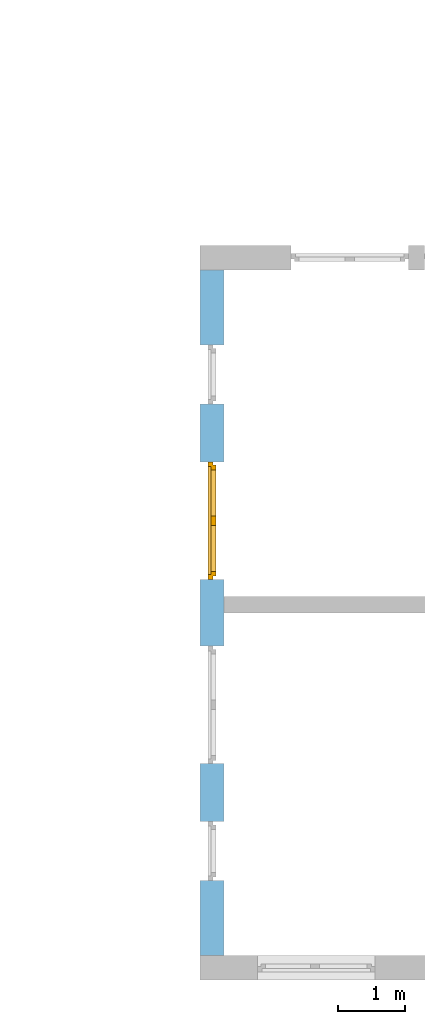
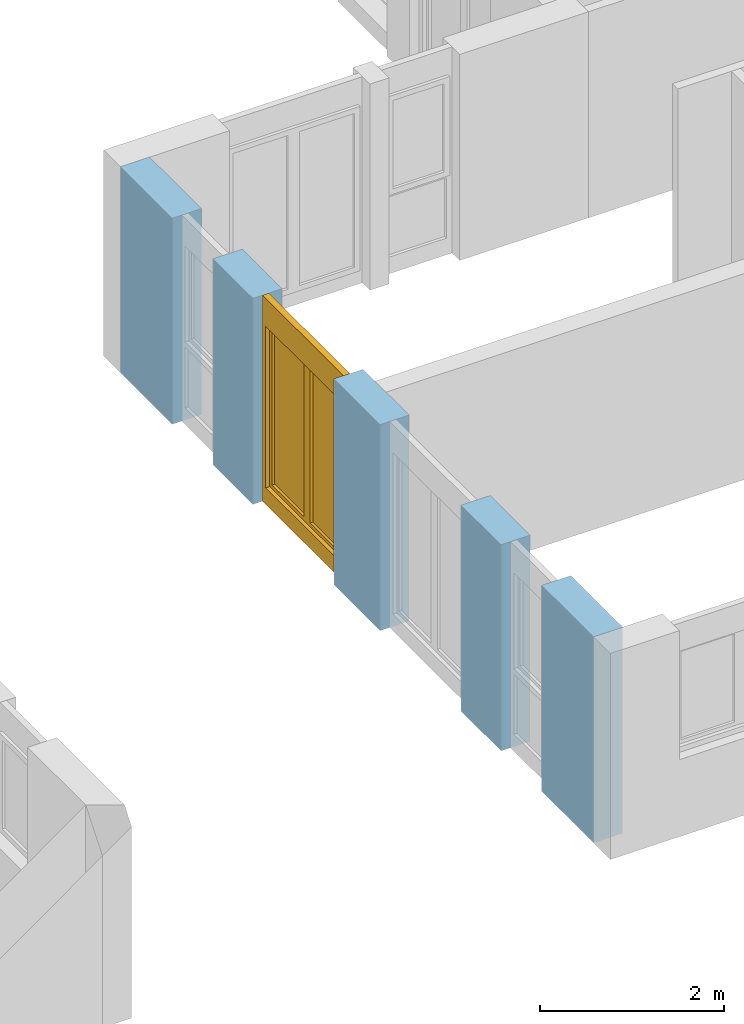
# One storey, part 15 of 41: 1 window, 4 openings, plus 1 element that does not belong to this part.
"""IFC2X3 building model written with IfcOpenShell, lengths in millimetres."""

import ifcopenshell
import ifcopenshell.guid

model = None  # the IFC model being written
_history = None  # IfcOwnerHistory: only IFC2X3 demands one
_inside = {}  # id of a spatial element -> (the spatial element, [elements in it])
_under = {}  # id of a project, library or spatial element -> (it, [spatial elements below it])
_declared = {}  # id of a project -> (the project, [libraries it declares])
_typed = {}  # id of a type object -> (the type object, [elements of that type])
_made_of = {}  # id of a material, layer set ... -> (it, [elements and type objects made of it])


def new_model(schema):
    """Start an empty IFC model of exactly this schema.

    Asked for "IFC4X3", IfcOpenShell would pick the latest addendum, in which some entities
    have other attributes; the version numbers below select the first issue.
    IFC2X3 requires an IfcOwnerHistory on every rooted entity: one is made here for all.
    """
    global model, _history
    if schema == "IFC4X3":
        model = ifcopenshell.file(schema_version=(4, 3, 0, 0))
    else:
        model = ifcopenshell.file(schema=schema)
    _inside.clear()
    _under.clear()
    _declared.clear()
    _typed.clear()
    _made_of.clear()
    _history = None
    if model.schema == "IFC2X3":
        org = make("IfcOrganization", Name="unknown")
        user = make(
            "IfcPersonAndOrganization",
            ThePerson=make("IfcPerson", FamilyName="unknown"),
            TheOrganization=org,
        )
        app = make(
            "IfcApplication",
            ApplicationDeveloper=org,
            Version="unknown",
            ApplicationFullName="unknown",
            ApplicationIdentifier="unknown",
        )
        _history = make(
            "IfcOwnerHistory",
            OwningUser=user,
            OwningApplication=app,
            ChangeAction="ADDED",
            CreationDate=0,
        )
    return model


def make(cls, **values):
    """One entity of the class cls with the attributes given. An attribute that is None is left unset."""
    return model.create_entity(
        cls, **{name: value for name, value in values.items() if value is not None}
    )


def entity(cls, *values):
    """Any entity or typed value of the class cls, its attributes in the order of the schema. None: left unset."""
    e = model.create_entity(cls)
    for i, value in enumerate(values):
        if value is not None:
            e[i] = value
    return e


def rooted(cls, **values):
    """An entity with a GlobalId (a new one), such as an element, a storey or a relation."""
    return make(cls, GlobalId=ifcopenshell.guid.new(), OwnerHistory=_history, **values)


def si_unit(unit_type, name, prefix=None):
    """IfcSIUnit, for example si_unit("LENGTHUNIT", "METRE", prefix="MILLI")."""
    return make("IfcSIUnit", UnitType=unit_type, Prefix=prefix, Name=name)


def converted_unit(unit_type, name, factor, base, dimensions=None, offset=None):
    """IfcConversionBasedUnit, such as the inch: factor (a typed value) times the base unit."""
    return make(
        "IfcConversionBasedUnit"
        if offset is None
        else "IfcConversionBasedUnitWithOffset",
        ConversionOffset=offset,
        Dimensions=None
        if dimensions is None
        else entity("IfcDimensionalExponents", *dimensions),
        UnitType=unit_type,
        Name=name,
        ConversionFactor=make(
            "IfcMeasureWithUnit", ValueComponent=factor, UnitComponent=base
        ),
    )


def assignment(units):
    """IfcUnitAssignment: the units of a project."""
    return None if units is None else make("IfcUnitAssignment", Units=units)


def point(xyz):
    """IfcCartesianPoint."""
    return None if xyz is None else make("IfcCartesianPoint", Coordinates=xyz)


def direction(xyz):
    """IfcDirection."""
    return None if xyz is None else make("IfcDirection", DirectionRatios=xyz)


def frame(location, z_axis=None, x_axis=None):
    """IfcAxis2Placement3D, a coordinate frame: its origin and axes. An axis left out is left unset."""
    return make(
        "IfcAxis2Placement3D",
        Location=point(location),
        Axis=direction(z_axis),
        RefDirection=direction(x_axis),
    )


def frame_2d(location, x_axis=None):
    """IfcAxis2Placement2D, a coordinate frame in the plane: its origin and x axis."""
    return make(
        "IfcAxis2Placement2D", Location=point(location), RefDirection=direction(x_axis)
    )


def origin():
    """The frame at (0, 0, 0) with its axes left unset."""
    return frame((0.0, 0.0, 0.0))


def origin_with_axes():
    """The frame at (0, 0, 0) with the z axis (0, 0, 1) and the x axis (1, 0, 0) written out."""
    return frame((0.0, 0.0, 0.0), z_axis=(0.0, 0.0, 1.0), x_axis=(1.0, 0.0, 0.0))


def place(relative_to, where):
    """IfcLocalPlacement: puts the frame where relative to a parent placement (None: the world)."""
    return make(
        "IfcLocalPlacement", PlacementRelTo=relative_to, RelativePlacement=where
    )


def context(
    kind, dimensions, precision=None, world=None, true_north=None, identifier=None
):
    """IfcGeometricRepresentationContext, for example the 3D "Model" context."""
    return make(
        "IfcGeometricRepresentationContext",
        ContextIdentifier=identifier,
        ContextType=kind,
        CoordinateSpaceDimension=dimensions,
        Precision=precision,
        WorldCoordinateSystem=world,
        TrueNorth=true_north,
    )


def subcontext(parent, identifier, kind, view, scale=None):
    """IfcGeometricRepresentationSubContext, for example "Body" below "Model"."""
    return make(
        "IfcGeometricRepresentationSubContext",
        ContextIdentifier=identifier,
        ContextType=kind,
        ParentContext=parent,
        TargetScale=scale,
        TargetView=view,
    )


def project(units=None, contexts=None):
    """IfcProject with its units and contexts."""
    return rooted(
        "IfcProject",
        Name="project",
        RepresentationContexts=contexts,
        UnitsInContext=assignment(units),
    )


def spatial(cls, under=None, at=None, **own):
    """A site, building, storey or space (cls), placed at a placement, below another one or the project."""
    s = rooted(cls, ObjectPlacement=at, **own)
    if under is not None:
        _under.setdefault(under.id(), (under, []))[1].append(s)
    return s


def profile(cls, at=None, kind="AREA", **sizes):
    """A parametric profile (cls). Its sizes go by their IFC names, for example OverallWidth=200.0."""
    return make(cls, ProfileType=kind, Position=at, **sizes)


def rectangle(**sizes):
    """IfcRectangleProfileDef."""
    return profile("IfcRectangleProfileDef", **sizes)


def extrude(swept, where, along, depth):
    """IfcExtrudedAreaSolid: the profile swept, set in the frame where, extruded along a direction by depth."""
    return make(
        "IfcExtrudedAreaSolid",
        SweptArea=swept,
        Position=where,
        ExtrudedDirection=direction(along),
        Depth=depth,
    )


def faces_of(points, faces, orient=None, outer=None):
    """IfcFace entities. A face is a list of loops; a loop is a list of indices into points, from 0.

    orient and outer hold one flag for each loop. By default every Orientation is true, the
    first loop of a face is its IfcFaceOuterBound and the others are IfcFaceBound.
    """
    made = []
    for i, loops in enumerate(faces):
        bounds = []
        for j, loop in enumerate(loops):
            is_outer = j == 0 if outer is None else outer[i][j]
            bounds.append(
                make(
                    "IfcFaceOuterBound" if is_outer else "IfcFaceBound",
                    Bound=make("IfcPolyLoop", Polygon=[points[k] for k in loop]),
                    Orientation=True if orient is None else orient[i][j],
                )
            )
        made.append(make("IfcFace", Bounds=bounds))
    return made


def faceted_brep(points, faces, orient=None, outer=None, voids=None):
    """IfcFacetedBrep: a solid bounded by flat faces; with voids (closed shells), ...WithVoids."""
    shared = [point(p) for p in points]
    hull = make("IfcClosedShell", CfsFaces=faces_of(shared, faces, orient, outer))
    if voids is None:
        return make("IfcFacetedBrep", Outer=hull)
    return make(
        "IfcFacetedBrepWithVoids",
        Outer=hull,
        Voids=[
            make(cls, CfsFaces=faces_of(shared, fs, o, b)) for cls, fs, o, b in voids
        ],
    )


def shape(context_of_items, identifier, shape_type, items):
    """IfcShapeRepresentation: the items that make up one representation, for example the "Body"."""
    return make(
        "IfcShapeRepresentation",
        ContextOfItems=context_of_items,
        RepresentationIdentifier=identifier,
        RepresentationType=shape_type,
        Items=items,
    )


def material(Name=None, Category=None):
    """IfcMaterial."""
    return make("IfcMaterial", Name=Name, Category=Category)


def layer(
    of_material, thickness, ventilated=None, Name=None, Category=None, Priority=None
):
    """IfcMaterialLayer: one layer of a wall or slab, of a material (None: an air gap)."""
    return make(
        "IfcMaterialLayer",
        Material=of_material,
        LayerThickness=thickness,
        IsVentilated=ventilated,
        Name=Name,
        Category=Category,
        Priority=Priority,
    )


def layer_set(layers, Name=None):
    """IfcMaterialLayerSet."""
    return make("IfcMaterialLayerSet", MaterialLayers=layers, LayerSetName=Name)


def layer_usage(for_layer_set, set_direction, sense, offset, extent=None):
    """IfcMaterialLayerSetUsage: how a layer set lies in its element."""
    return make(
        "IfcMaterialLayerSetUsage",
        ForLayerSet=for_layer_set,
        LayerSetDirection=set_direction,
        DirectionSense=sense,
        OffsetFromReferenceLine=offset,
        ReferenceExtent=extent,
    )


def made_of(thing, what):
    """Note that an element or type object is made of a material, layer set ...; save() writes the relation."""
    if what is not None:
        _made_of.setdefault(what.id(), (what, []))[1].append(thing)
    return thing


def type_object(cls, material=None, **own):
    """A type object (cls), such as IfcWallType, which elements share."""
    return made_of(rooted(cls, **own), material)


def element(
    cls,
    number,
    at=None,
    inside=None,
    cuts=None,
    type_object=None,
    material=None,
    context=None,
    identifier="Body",
    shape_type=None,
    held_by="IfcProductDefinitionShape",
    body=None,
    shapes=None,
    **own,
):
    """One element of the class cls, such as IfcWall. Its Tag is "e" and its number.

    at: its placement. inside: the storey or other place that contains it. cuts: it is an
    opening in that element (IfcRelVoidsElement). A single representation is given by context,
    identifier, shape_type and body (its items); several are given by shapes. held_by: the class
    of the entity that holds the representations. save() writes the other relations.
    """
    e = rooted(cls, Tag="e%d" % number, ObjectPlacement=at, **own)
    if body is not None:
        shapes = [shape(context, identifier, shape_type, body)]
    if shapes is not None:
        e.Representation = make(held_by, Representations=shapes)
    if inside is not None:
        _inside.setdefault(inside.id(), (inside, []))[1].append(e)
    if cuts is not None:
        rooted(
            "IfcRelVoidsElement", RelatingBuildingElement=cuts, RelatedOpeningElement=e
        )
    if type_object is not None:
        _typed.setdefault(type_object.id(), (type_object, []))[1].append(e)
    return made_of(e, material)


def fill(opening, filler):
    """IfcRelFillsElement: the door or window that sits in an opening."""
    return rooted(
        "IfcRelFillsElement",
        RelatingOpeningElement=opening,
        RelatedBuildingElement=filler,
    )


def aggregate(whole, parts):
    """IfcRelAggregates: a whole, such as a stair, and the parts it consists of."""
    return rooted("IfcRelAggregates", RelatingObject=whole, RelatedObjects=parts)


def save(model, path):
    """Write the relations noted so far, then the file.

    IfcRelAggregates (storeys below a building ...), IfcRelContainedInSpatialStructure (elements
    in a storey), IfcRelDefinesByType, IfcRelAssociatesMaterial and IfcRelDeclares: one each for
    every whole, place, type object, material and project.
    """
    for whole, parts in _under.values():
        aggregate(whole, parts)
    for where, things in _inside.values():
        rooted(
            "IfcRelContainedInSpatialStructure",
            RelatedElements=things,
            RelatingStructure=where,
        )
    for kind, things in _typed.values():
        rooted("IfcRelDefinesByType", RelatedObjects=things, RelatingType=kind)
    for what, things in _made_of.values():
        rooted("IfcRelAssociatesMaterial", RelatedObjects=things, RelatingMaterial=what)
    for by, libraries in _declared.values():
        rooted("IfcRelDeclares", RelatingContext=by, RelatedDefinitions=libraries)
    model.write(path)


model = new_model("IFC2X3")

# Units and contexts
model_context = context("Model", 3, precision=1e-05, world=origin())
body_context = subcontext(model_context, "Body", "Model", "MODEL_VIEW")
ifc_project = project(units=[si_unit("LENGTHUNIT", "METRE", prefix="MILLI"), converted_unit("PLANEANGLEUNIT", "DEGREE", entity("IfcPlaneAngleMeasure", 0.0174532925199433), si_unit("PLANEANGLEUNIT", "RADIAN"), dimensions=[0, 0, 0, 0, 0, 0, 0]), si_unit("AREAUNIT", "SQUARE_METRE"), si_unit("VOLUMEUNIT", "CUBIC_METRE")], contexts=[model_context])

# Building, storey
building_placement = place(None, origin())
building = spatial("IfcBuilding", under=ifc_project, at=building_placement, Name="Gebäude", CompositionType="ELEMENT")
storey_placement = place(building_placement, frame((0.0, 0.0, -200.0), z_axis=(0.0, 0.0, 1.0), x_axis=(1.0, 0.0, 0.0)))
storey = spatial("IfcBuildingStorey", under=building, at=storey_placement, Name="EG.- Grundriss", CompositionType="ELEMENT", Elevation=-200.0)

# Wall, openings, window
ifc_material_1 = material(Name="Poroton")
ifc_layer = layer(ifc_material_1, 365.0)
ifc_layer_set = layer_set([ifc_layer])
ifc_layer_usage = layer_usage(ifc_layer_set, "AXIS2", "POSITIVE", 0.0)
wall_placement = place(storey_placement, frame((148357.7928067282, 135909.8877324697, 0.0), z_axis=(0.0, 0.0, 1.0), x_axis=(1.70032115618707e-14, -1.0, 0.0)))
wall = element("IfcWallStandardCase", 1, at=wall_placement, inside=storey, material=ifc_layer_usage, Name="<Unnamed Element>", context=body_context, shape_type="SweptSolid", body=[
    extrude(rectangle(XDim=10269.99999999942, YDim=365.0, at=frame_2d((5134.999999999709, 182.5), x_axis=(1.0, 0.0))), origin_with_axes(), (0.0, 0.0, 1.0), 2730.0),
])
opening_1_placement = place(wall_placement, frame((8259.999999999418, -9.487848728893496e-11, 0.0), z_axis=(0.0, 1.0, 0.0), x_axis=(0.0, 0.0, 1.0)))
element("IfcOpeningElement", 2, at=opening_1_placement, cuts=wall, Name="Fensteröffnung", ObjectType="Opening", context=body_context, shape_type="SweptSolid", body=[
    extrude(rectangle(XDim=2730.0, YDim=885.0, at=frame_2d((1365.0, 442.5), x_axis=(1.0, 0.0))), origin_with_axes(), (0.0, 0.0, 1.0), 365.0),
])
opening_2_placement = place(wall_placement, frame((5634.999999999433, -7.668859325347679e-11, 0.0), z_axis=(0.0, 1.0, 0.0), x_axis=(0.0, 0.0, 1.0)))
element("IfcOpeningElement", 3, at=opening_2_placement, cuts=wall, Name="Fensteröffnung", ObjectType="Opening", context=body_context, shape_type="SweptSolid", body=[
    extrude(rectangle(XDim=2730.0, YDim=1760.0, at=frame_2d((1365.0, 880.0), x_axis=(1.0, 0.0))), origin_with_axes(), (0.0, 0.0, 1.0), 365.0),
])
opening_3_placement = place(wall_placement, frame((2874.999999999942, -2.54658516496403e-11, 0.0), z_axis=(0.0, 1.0, 0.0), x_axis=(0.0, 0.0, 1.0)))
opening_3 = element("IfcOpeningElement", 4, at=opening_3_placement, cuts=wall, Name="Fensteröffnung", ObjectType="Opening", context=body_context, shape_type="SweptSolid", body=[
    extrude(rectangle(XDim=2730.0, YDim=1760.0, at=frame_2d((1365.0, 880.0), x_axis=(1.0, 0.0))), origin_with_axes(), (0.0, 0.0, 1.0), 365.0),
])
opening_4_placement = place(wall_placement, frame((1124.999999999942, -3.63797880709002e-12, 0.0), z_axis=(0.0, 1.0, 0.0), x_axis=(0.0, 0.0, 1.0)))
element("IfcOpeningElement", 5, at=opening_4_placement, cuts=wall, Name="Fensteröffnung", ObjectType="Opening", context=body_context, shape_type="SweptSolid", body=[
    extrude(rectangle(XDim=2730.0, YDim=885.0, at=frame_2d((1365.0, 442.5), x_axis=(1.0, 0.0))), origin_with_axes(), (0.0, 0.0, 1.0), 365.0),
])
ifc_material_2 = material()
window_style = type_object("IfcWindowStyle", Name="Fenster", ConstructionType="NOTDEFINED", OperationType="USERDEFINED", ParameterTakesPrecedence=False, Sizeable=False)
window_placement = place(opening_3_placement, frame((0.0, 0.0, 0.0), z_axis=(1.0, 0.0, 0.0), x_axis=(0.0, 1.0, 0.0)))
window = element("IfcWindow", 6, at=window_placement, inside=storey, type_object=window_style, material=ifc_material_2, Name="Fenster", OverallHeight=2730.0, OverallWidth=1760.0, context=body_context, shape_type="Brep", body=[
    faceted_brep([(1.355358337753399e-12, 200.0000000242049, 2730.0), (1.355358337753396e-12, 200.0000000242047, -2.449293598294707e-15), (69.99999999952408, 200.0000000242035, -2.449293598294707e-15), (69.99999999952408, 200.0000000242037, 2730.0), (0.0, 120.0000000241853, 2.449293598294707e-15), (2.88912006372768e-27, 120.0000000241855, 2730.0), (69.99999999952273, 120.0000000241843, 2730.0), (69.99999999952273, 120.0000000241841, 2.449293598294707e-15), (1.355358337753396e-12, 200.0000000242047, -2.449293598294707e-15), (1.355358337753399e-12, 200.0000000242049, 2730.0), (2.88912006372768e-27, 120.0000000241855, 2730.0), (0.0, 120.0000000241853, 2.449293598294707e-15), (69.99999999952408, 200.0000000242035, -2.449293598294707e-15), (1.355358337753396e-12, 200.0000000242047, -2.449293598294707e-15), (0.0, 120.0000000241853, 2.449293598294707e-15), (69.99999999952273, 120.0000000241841, 2.449293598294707e-15), (69.99999999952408, 200.0000000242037, 2730.0), (69.99999999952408, 200.0000000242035, -2.449293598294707e-15), (69.99999999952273, 120.0000000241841, 2.449293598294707e-15), (69.99999999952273, 120.0000000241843, 2730.0), (1.355358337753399e-12, 200.0000000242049, 2730.0), (69.99999999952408, 200.0000000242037, 2730.0), (69.99999999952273, 120.0000000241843, 2730.0), (2.88912006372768e-27, 120.0000000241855, 2730.0)], [[[0, 1, 2, 3]], [[4, 5, 6, 7]], [[8, 9, 10, 11]], [[12, 13, 14, 15]], [[16, 17, 18, 19]], [[20, 21, 22, 23]]], orient=[[False], [False], [False], [False], [False], [False]]),
    faceted_brep([(1690.000000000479, 200.0000000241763, 2730.0), (1690.000000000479, 200.0000000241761, -2.449293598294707e-15), (1760.000000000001, 200.0000000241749, -2.449293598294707e-15), (1760.000000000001, 200.0000000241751, 2730.0), (1690.000000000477, 120.0000000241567, 2.449293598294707e-15), (1690.000000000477, 120.0000000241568, 2730.0), (1760.0, 120.0000000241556, 2730.0), (1760.0, 120.0000000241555, 2.449293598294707e-15), (1690.000000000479, 200.0000000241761, -2.449293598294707e-15), (1690.000000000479, 200.0000000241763, 2730.0), (1690.000000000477, 120.0000000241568, 2730.0), (1690.000000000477, 120.0000000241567, 2.449293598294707e-15), (1760.000000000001, 200.0000000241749, -2.449293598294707e-15), (1690.000000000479, 200.0000000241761, -2.449293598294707e-15), (1690.000000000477, 120.0000000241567, 2.449293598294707e-15), (1760.0, 120.0000000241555, 2.449293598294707e-15), (1760.000000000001, 200.0000000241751, 2730.0), (1760.000000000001, 200.0000000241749, -2.449293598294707e-15), (1760.0, 120.0000000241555, 2.449293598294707e-15), (1760.0, 120.0000000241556, 2730.0), (1690.000000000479, 200.0000000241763, 2730.0), (1760.000000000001, 200.0000000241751, 2730.0), (1760.0, 120.0000000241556, 2730.0), (1690.000000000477, 120.0000000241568, 2730.0)], [[[0, 1, 2, 3]], [[4, 5, 6, 7]], [[8, 9, 10, 11]], [[12, 13, 14, 15]], [[16, 17, 18, 19]], [[20, 21, 22, 23]]], orient=[[False], [False], [False], [False], [False], [False]]),
    faceted_brep([(69.99999999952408, 200.0000000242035, 220.0), (69.99999999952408, 200.0000000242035, -2.449293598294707e-15), (1690.000000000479, 200.0000000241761, -2.449293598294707e-15), (1690.000000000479, 200.0000000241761, 220.0), (69.99999999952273, 120.0000000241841, 2.449293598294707e-15), (69.99999999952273, 120.0000000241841, 220.0), (1690.000000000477, 120.0000000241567, 220.0), (1690.000000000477, 120.0000000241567, 2.449293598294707e-15), (69.99999999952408, 200.0000000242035, -2.449293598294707e-15), (69.99999999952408, 200.0000000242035, 220.0), (69.99999999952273, 120.0000000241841, 220.0), (69.99999999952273, 120.0000000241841, 2.449293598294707e-15), (1690.000000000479, 200.0000000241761, -2.449293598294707e-15), (69.99999999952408, 200.0000000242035, -2.449293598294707e-15), (69.99999999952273, 120.0000000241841, 2.449293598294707e-15), (1690.000000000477, 120.0000000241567, 2.449293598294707e-15), (1690.000000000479, 200.0000000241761, 220.0), (1690.000000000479, 200.0000000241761, -2.449293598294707e-15), (1690.000000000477, 120.0000000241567, 2.449293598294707e-15), (1690.000000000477, 120.0000000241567, 220.0), (69.99999999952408, 200.0000000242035, 220.0), (1690.000000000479, 200.0000000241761, 220.0), (1690.000000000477, 120.0000000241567, 220.0), (69.99999999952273, 120.0000000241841, 220.0)], [[[0, 1, 2, 3]], [[4, 5, 6, 7]], [[8, 9, 10, 11]], [[12, 13, 14, 15]], [[16, 17, 18, 19]], [[20, 21, 22, 23]]], orient=[[False], [False], [False], [False], [False], [False]]),
    faceted_brep([(69.99999999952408, 200.0000000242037, 2730.0), (69.99999999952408, 200.0000000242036, 2360.0), (1690.000000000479, 200.0000000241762, 2360.0), (1690.000000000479, 200.0000000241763, 2730.0), (69.99999999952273, 120.0000000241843, 2360.0), (69.99999999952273, 120.0000000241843, 2730.0), (1690.000000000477, 120.0000000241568, 2730.0), (1690.000000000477, 120.0000000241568, 2360.0), (69.99999999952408, 200.0000000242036, 2360.0), (69.99999999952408, 200.0000000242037, 2730.0), (69.99999999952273, 120.0000000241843, 2730.0), (69.99999999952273, 120.0000000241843, 2360.0), (1690.000000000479, 200.0000000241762, 2360.0), (69.99999999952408, 200.0000000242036, 2360.0), (69.99999999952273, 120.0000000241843, 2360.0), (1690.000000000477, 120.0000000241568, 2360.0), (1690.000000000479, 200.0000000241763, 2730.0), (1690.000000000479, 200.0000000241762, 2360.0), (1690.000000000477, 120.0000000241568, 2360.0), (1690.000000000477, 120.0000000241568, 2730.0), (69.99999999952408, 200.0000000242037, 2730.0), (1690.000000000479, 200.0000000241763, 2730.0), (1690.000000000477, 120.0000000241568, 2730.0), (69.99999999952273, 120.0000000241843, 2730.0)], [[[0, 1, 2, 3]], [[4, 5, 6, 7]], [[8, 9, 10, 11]], [[12, 13, 14, 15]], [[16, 17, 18, 19]], [[20, 21, 22, 23]]], orient=[[False], [False], [False], [False], [False], [False]]),
    faceted_brep([(49.99999999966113, 240.0000000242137, 2380.0), (49.99999999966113, 240.0000000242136, 200.0), (119.9999999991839, 240.0000000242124, 200.0), (119.9999999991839, 240.0000000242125, 2380.0), (49.99999999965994, 170.0000000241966, 200.0), (49.99999999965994, 170.0000000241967, 2380.0), (119.9999999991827, 170.0000000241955, 2380.0), (119.9999999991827, 170.0000000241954, 200.0), (49.99999999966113, 240.0000000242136, 200.0), (49.99999999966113, 240.0000000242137, 2380.0), (49.99999999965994, 170.0000000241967, 2380.0), (49.99999999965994, 170.0000000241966, 200.0), (119.9999999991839, 240.0000000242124, 200.0), (49.99999999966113, 240.0000000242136, 200.0), (49.99999999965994, 170.0000000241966, 200.0), (119.9999999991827, 170.0000000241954, 200.0), (119.9999999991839, 240.0000000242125, 2380.0), (119.9999999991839, 240.0000000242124, 200.0), (119.9999999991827, 170.0000000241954, 200.0), (119.9999999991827, 170.0000000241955, 2380.0), (49.99999999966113, 240.0000000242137, 2380.0), (119.9999999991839, 240.0000000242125, 2380.0), (119.9999999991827, 170.0000000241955, 2380.0), (49.99999999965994, 170.0000000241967, 2380.0)], [[[0, 1, 2, 3]], [[4, 5, 6, 7]], [[8, 9, 10, 11]], [[12, 13, 14, 15]], [[16, 17, 18, 19]], [[20, 21, 22, 23]]], orient=[[False], [False], [False], [False], [False], [False]]),
    faceted_brep([(809.5000000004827, 240.0000000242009, 2380.0), (809.5000000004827, 240.0000000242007, 200.0), (879.5000000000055, 240.0000000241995, 200.0), (879.5000000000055, 240.0000000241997, 2380.0), (809.5000000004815, 170.0000000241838, 200.0), (809.5000000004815, 170.0000000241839, 2380.0), (879.5000000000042, 170.0000000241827, 2380.0), (879.5000000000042, 170.0000000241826, 200.0), (809.5000000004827, 240.0000000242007, 200.0), (809.5000000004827, 240.0000000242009, 2380.0), (809.5000000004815, 170.0000000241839, 2380.0), (809.5000000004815, 170.0000000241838, 200.0), (879.5000000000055, 240.0000000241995, 200.0), (809.5000000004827, 240.0000000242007, 200.0), (809.5000000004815, 170.0000000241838, 200.0), (879.5000000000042, 170.0000000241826, 200.0), (879.5000000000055, 240.0000000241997, 2380.0), (879.5000000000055, 240.0000000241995, 200.0), (879.5000000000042, 170.0000000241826, 200.0), (879.5000000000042, 170.0000000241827, 2380.0), (809.5000000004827, 240.0000000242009, 2380.0), (879.5000000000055, 240.0000000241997, 2380.0), (879.5000000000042, 170.0000000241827, 2380.0), (809.5000000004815, 170.0000000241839, 2380.0)], [[[0, 1, 2, 3]], [[4, 5, 6, 7]], [[8, 9, 10, 11]], [[12, 13, 14, 15]], [[16, 17, 18, 19]], [[20, 21, 22, 23]]], orient=[[False], [False], [False], [False], [False], [False]]),
    faceted_brep([(119.9999999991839, 240.0000000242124, 270.0), (119.9999999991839, 240.0000000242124, 200.0), (809.5000000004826, 240.0000000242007, 200.0), (809.5000000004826, 240.0000000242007, 270.0), (119.9999999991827, 170.0000000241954, 200.0), (119.9999999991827, 170.0000000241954, 270.0), (809.5000000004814, 170.0000000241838, 270.0), (809.5000000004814, 170.0000000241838, 200.0), (119.9999999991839, 240.0000000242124, 200.0), (119.9999999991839, 240.0000000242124, 270.0), (119.9999999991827, 170.0000000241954, 270.0), (119.9999999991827, 170.0000000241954, 200.0), (809.5000000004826, 240.0000000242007, 200.0), (119.9999999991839, 240.0000000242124, 200.0), (119.9999999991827, 170.0000000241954, 200.0), (809.5000000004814, 170.0000000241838, 200.0), (809.5000000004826, 240.0000000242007, 270.0), (809.5000000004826, 240.0000000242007, 200.0), (809.5000000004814, 170.0000000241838, 200.0), (809.5000000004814, 170.0000000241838, 270.0), (119.9999999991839, 240.0000000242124, 270.0), (809.5000000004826, 240.0000000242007, 270.0), (809.5000000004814, 170.0000000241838, 270.0), (119.9999999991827, 170.0000000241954, 270.0)], [[[0, 1, 2, 3]], [[4, 5, 6, 7]], [[8, 9, 10, 11]], [[12, 13, 14, 15]], [[16, 17, 18, 19]], [[20, 21, 22, 23]]], orient=[[False], [False], [False], [False], [False], [False]]),
    faceted_brep([(119.9999999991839, 240.0000000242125, 2380.0), (119.9999999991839, 240.0000000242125, 2310.0), (809.5000000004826, 240.0000000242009, 2310.0), (809.5000000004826, 240.0000000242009, 2380.0), (119.9999999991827, 170.0000000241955, 2310.0), (119.9999999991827, 170.0000000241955, 2380.0), (809.5000000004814, 170.0000000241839, 2380.0), (809.5000000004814, 170.0000000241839, 2310.0), (119.9999999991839, 240.0000000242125, 2310.0), (119.9999999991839, 240.0000000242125, 2380.0), (119.9999999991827, 170.0000000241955, 2380.0), (119.9999999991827, 170.0000000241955, 2310.0), (809.5000000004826, 240.0000000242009, 2310.0), (119.9999999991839, 240.0000000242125, 2310.0), (119.9999999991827, 170.0000000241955, 2310.0), (809.5000000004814, 170.0000000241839, 2310.0), (809.5000000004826, 240.0000000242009, 2380.0), (809.5000000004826, 240.0000000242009, 2310.0), (809.5000000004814, 170.0000000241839, 2310.0), (809.5000000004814, 170.0000000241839, 2380.0), (119.9999999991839, 240.0000000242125, 2380.0), (809.5000000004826, 240.0000000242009, 2380.0), (809.5000000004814, 170.0000000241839, 2380.0), (119.9999999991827, 170.0000000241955, 2380.0)], [[[0, 1, 2, 3]], [[4, 5, 6, 7]], [[8, 9, 10, 11]], [[12, 13, 14, 15]], [[16, 17, 18, 19]], [[20, 21, 22, 23]]], orient=[[False], [False], [False], [False], [False], [False]]),
    faceted_brep([(880.4999999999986, 240.0000000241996, 2380.0), (880.4999999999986, 240.0000000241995, 200.0), (950.4999999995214, 240.0000000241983, 200.0), (950.4999999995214, 240.0000000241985, 2380.0), (880.4999999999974, 170.0000000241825, 200.0), (880.4999999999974, 170.0000000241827, 2380.0), (950.4999999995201, 170.0000000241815, 2380.0), (950.4999999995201, 170.0000000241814, 200.0), (880.4999999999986, 240.0000000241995, 200.0), (880.4999999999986, 240.0000000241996, 2380.0), (880.4999999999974, 170.0000000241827, 2380.0), (880.4999999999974, 170.0000000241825, 200.0), (950.4999999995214, 240.0000000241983, 200.0), (880.4999999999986, 240.0000000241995, 200.0), (880.4999999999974, 170.0000000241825, 200.0), (950.4999999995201, 170.0000000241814, 200.0), (950.4999999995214, 240.0000000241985, 2380.0), (950.4999999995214, 240.0000000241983, 200.0), (950.4999999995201, 170.0000000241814, 200.0), (950.4999999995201, 170.0000000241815, 2380.0), (880.4999999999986, 240.0000000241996, 2380.0), (950.4999999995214, 240.0000000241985, 2380.0), (950.4999999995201, 170.0000000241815, 2380.0), (880.4999999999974, 170.0000000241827, 2380.0)], [[[0, 1, 2, 3]], [[4, 5, 6, 7]], [[8, 9, 10, 11]], [[12, 13, 14, 15]], [[16, 17, 18, 19]], [[20, 21, 22, 23]]], orient=[[False], [False], [False], [False], [False], [False]]),
    faceted_brep([(1640.00000000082, 240.0000000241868, 2380.0), (1640.00000000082, 240.0000000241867, 200.0), (1710.000000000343, 240.0000000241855, 200.0), (1710.000000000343, 240.0000000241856, 2380.0), (1640.000000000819, 170.0000000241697, 200.0), (1640.000000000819, 170.0000000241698, 2380.0), (1710.000000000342, 170.0000000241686, 2380.0), (1710.000000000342, 170.0000000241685, 200.0), (1640.00000000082, 240.0000000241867, 200.0), (1640.00000000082, 240.0000000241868, 2380.0), (1640.000000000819, 170.0000000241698, 2380.0), (1640.000000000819, 170.0000000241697, 200.0), (1710.000000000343, 240.0000000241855, 200.0), (1640.00000000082, 240.0000000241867, 200.0), (1640.000000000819, 170.0000000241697, 200.0), (1710.000000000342, 170.0000000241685, 200.0), (1710.000000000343, 240.0000000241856, 2380.0), (1710.000000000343, 240.0000000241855, 200.0), (1710.000000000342, 170.0000000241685, 200.0), (1710.000000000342, 170.0000000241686, 2380.0), (1640.00000000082, 240.0000000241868, 2380.0), (1710.000000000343, 240.0000000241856, 2380.0), (1710.000000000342, 170.0000000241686, 2380.0), (1640.000000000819, 170.0000000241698, 2380.0)], [[[0, 1, 2, 3]], [[4, 5, 6, 7]], [[8, 9, 10, 11]], [[12, 13, 14, 15]], [[16, 17, 18, 19]], [[20, 21, 22, 23]]], orient=[[False], [False], [False], [False], [False], [False]]),
    faceted_brep([(950.4999999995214, 240.0000000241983, 270.0), (950.4999999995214, 240.0000000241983, 200.0), (1640.00000000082, 240.0000000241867, 200.0), (1640.00000000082, 240.0000000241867, 270.0), (950.4999999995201, 170.0000000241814, 200.0), (950.4999999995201, 170.0000000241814, 270.0), (1640.000000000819, 170.0000000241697, 270.0), (1640.000000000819, 170.0000000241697, 200.0), (950.4999999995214, 240.0000000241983, 200.0), (950.4999999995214, 240.0000000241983, 270.0), (950.4999999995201, 170.0000000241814, 270.0), (950.4999999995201, 170.0000000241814, 200.0), (1640.00000000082, 240.0000000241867, 200.0), (950.4999999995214, 240.0000000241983, 200.0), (950.4999999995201, 170.0000000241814, 200.0), (1640.000000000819, 170.0000000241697, 200.0), (1640.00000000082, 240.0000000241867, 270.0), (1640.00000000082, 240.0000000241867, 200.0), (1640.000000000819, 170.0000000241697, 200.0), (1640.000000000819, 170.0000000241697, 270.0), (950.4999999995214, 240.0000000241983, 270.0), (1640.00000000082, 240.0000000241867, 270.0), (1640.000000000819, 170.0000000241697, 270.0), (950.4999999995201, 170.0000000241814, 270.0)], [[[0, 1, 2, 3]], [[4, 5, 6, 7]], [[8, 9, 10, 11]], [[12, 13, 14, 15]], [[16, 17, 18, 19]], [[20, 21, 22, 23]]], orient=[[False], [False], [False], [False], [False], [False]]),
    faceted_brep([(950.4999999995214, 240.0000000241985, 2380.0), (950.4999999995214, 240.0000000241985, 2310.0), (1640.00000000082, 240.0000000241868, 2310.0), (1640.00000000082, 240.0000000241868, 2380.0), (950.4999999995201, 170.0000000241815, 2310.0), (950.4999999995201, 170.0000000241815, 2380.0), (1640.000000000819, 170.0000000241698, 2380.0), (1640.000000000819, 170.0000000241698, 2310.0), (950.4999999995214, 240.0000000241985, 2310.0), (950.4999999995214, 240.0000000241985, 2380.0), (950.4999999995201, 170.0000000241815, 2380.0), (950.4999999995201, 170.0000000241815, 2310.0), (1640.00000000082, 240.0000000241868, 2310.0), (950.4999999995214, 240.0000000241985, 2310.0), (950.4999999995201, 170.0000000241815, 2310.0), (1640.000000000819, 170.0000000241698, 2310.0), (1640.00000000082, 240.0000000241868, 2380.0), (1640.00000000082, 240.0000000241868, 2310.0), (1640.000000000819, 170.0000000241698, 2310.0), (1640.000000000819, 170.0000000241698, 2380.0), (950.4999999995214, 240.0000000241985, 2380.0), (1640.00000000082, 240.0000000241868, 2380.0), (1640.000000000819, 170.0000000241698, 2380.0), (950.4999999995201, 170.0000000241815, 2380.0)], [[[0, 1, 2, 3]], [[4, 5, 6, 7]], [[8, 9, 10, 11]], [[12, 13, 14, 15]], [[16, 17, 18, 19]], [[20, 21, 22, 23]]], orient=[[False], [False], [False], [False], [False], [False]]),
    faceted_brep([(119.9999999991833, 205.0000000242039, 270.0), (809.500000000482, 205.0000000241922, 270.0), (809.500000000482, 205.0000000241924, 2310.0), (119.9999999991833, 205.000000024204, 2310.0), (119.9999999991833, 204.0000000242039, 270.0), (119.9999999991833, 204.000000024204, 2310.0), (809.500000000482, 204.0000000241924, 2310.0), (809.500000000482, 204.0000000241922, 270.0), (119.9999999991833, 205.0000000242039, 270.0), (119.9999999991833, 204.0000000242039, 270.0), (809.500000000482, 204.0000000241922, 270.0), (809.500000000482, 205.0000000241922, 270.0), (809.500000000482, 205.0000000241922, 270.0), (809.500000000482, 204.0000000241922, 270.0), (809.500000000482, 204.0000000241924, 2310.0), (809.500000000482, 205.0000000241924, 2310.0), (809.500000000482, 205.0000000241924, 2310.0), (809.500000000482, 204.0000000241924, 2310.0), (119.9999999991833, 204.000000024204, 2310.0), (119.9999999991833, 205.000000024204, 2310.0), (119.9999999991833, 205.000000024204, 2310.0), (119.9999999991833, 204.000000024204, 2310.0), (119.9999999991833, 204.0000000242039, 270.0), (119.9999999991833, 205.0000000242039, 270.0)], [[[0, 1, 2, 3]], [[4, 5, 6, 7]], [[8, 9, 10, 11]], [[12, 13, 14, 15]], [[16, 17, 18, 19]], [[20, 21, 22, 23]]], orient=[[False], [False], [False], [False], [False], [False]]),
    faceted_brep([(950.4999999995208, 205.0000000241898, 270.0), (1640.00000000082, 205.0000000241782, 270.0), (1640.00000000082, 205.0000000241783, 2310.0), (950.4999999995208, 205.00000002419, 2310.0), (950.4999999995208, 204.0000000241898, 270.0), (950.4999999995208, 204.00000002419, 2310.0), (1640.00000000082, 204.0000000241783, 2310.0), (1640.00000000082, 204.0000000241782, 270.0), (950.4999999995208, 205.0000000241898, 270.0), (950.4999999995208, 204.0000000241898, 270.0), (1640.00000000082, 204.0000000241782, 270.0), (1640.00000000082, 205.0000000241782, 270.0), (1640.00000000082, 205.0000000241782, 270.0), (1640.00000000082, 204.0000000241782, 270.0), (1640.00000000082, 204.0000000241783, 2310.0), (1640.00000000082, 205.0000000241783, 2310.0), (1640.00000000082, 205.0000000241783, 2310.0), (1640.00000000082, 204.0000000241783, 2310.0), (950.4999999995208, 204.00000002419, 2310.0), (950.4999999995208, 205.00000002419, 2310.0), (950.4999999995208, 205.00000002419, 2310.0), (950.4999999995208, 204.00000002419, 2310.0), (950.4999999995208, 204.0000000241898, 270.0), (950.4999999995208, 205.0000000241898, 270.0)], [[[0, 1, 2, 3]], [[4, 5, 6, 7]], [[8, 9, 10, 11]], [[12, 13, 14, 15]], [[16, 17, 18, 19]], [[20, 21, 22, 23]]], orient=[[False], [False], [False], [False], [False], [False]]),
])
fill(opening_3, window)

save(model, "model.ifc")
